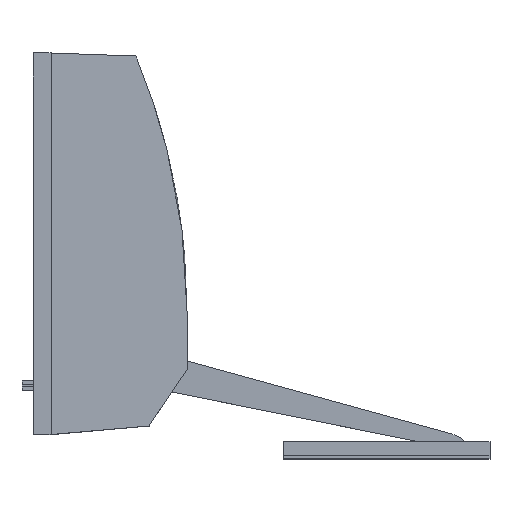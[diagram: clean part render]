
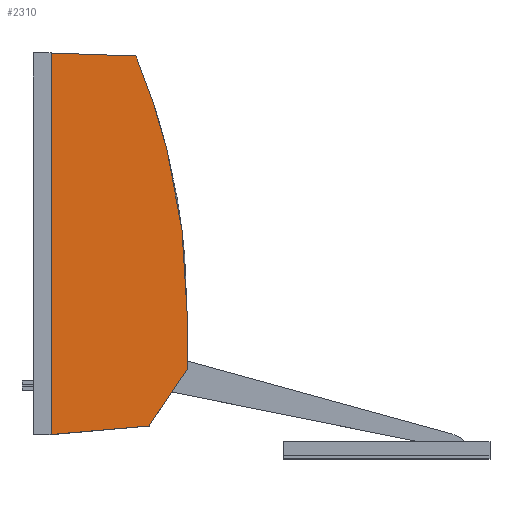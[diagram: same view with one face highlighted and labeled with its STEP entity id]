
A CAD part, top view. The second image highlights one B-rep face of the part: STEP entity #2310.
In plain terms, the highlighted planar face has unit normal (0.035, 0, 0.999).
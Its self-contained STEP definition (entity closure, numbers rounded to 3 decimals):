
#1230 = VERTEX_POINT( '', #3639 );
#1708 = VERTEX_POINT( '', #4177 );
#1814 = EDGE_CURVE( '', #1230, #1708, #4304, .T. );
#2102 = VERTEX_POINT( '', #4622 );
#2228 = EDGE_CURVE( '', #2230, #2516, #4762, .T. );
#2230 = VERTEX_POINT( '', #4764 );
#2310 = ADVANCED_FACE( '', ( #4850 ), #4851, .F. );
#2516 = VERTEX_POINT( '', #5074 );
#2970 = EDGE_CURVE( '', #1230, #3290, #5564, .T. );
#3054 = EDGE_CURVE( '', #1708, #2102, #5655, .T. );
#3152 = EDGE_CURVE( '', #2516, #3290, #5774, .T. );
#3290 = VERTEX_POINT( '', #5923 );
#3410 = EDGE_CURVE( '', #2230, #2102, #6057, .T. );
#3639 = CARTESIAN_POINT( '', ( 0., -58., 16. ) );
#4177 = CARTESIAN_POINT( '', ( 52.284, -53.426, 14.174 ) );
#4304 = LINE( '', #7261, #7262 );
#4622 = CARTESIAN_POINT( '', ( 72.5, -23.102, 13.468 ) );
#4762 = ELLIPSE( '', #7925, 356.737, 356.52 );
#4764 = CARTESIAN_POINT( '', ( 72.5, 7.049, 13.468 ) );
#4850 = FACE_OUTER_BOUND( '', #8048, .T. );
#4851 = PLANE( '', #8049 );
#5074 = CARTESIAN_POINT( '', ( 45.236, 143.786, 14.42 ) );
#5564 = LINE( '', #9167, #9168 );
#5655 = LINE( '', #9307, #9308 );
#5774 = LINE( '', #9469, #9470 );
#5923 = CARTESIAN_POINT( '', ( 0., 145.365, 16. ) );
#6057 = LINE( '', #9952, #9953 );
#7261 = CARTESIAN_POINT( '', ( 0.015, -57.999, 15.999 ) );
#7262 = VECTOR( '', #11093, 1. );
#7925 = AXIS2_PLACEMENT_3D( '', #11600, #11601, #11602 );
#8048 = EDGE_LOOP( '', ( #11679, #11680, #11681, #11682, #11683, #11684 ) );
#8049 = AXIS2_PLACEMENT_3D( '', #11685, #11686, #11687 );
#9167 = CARTESIAN_POINT( '', ( 0., -70., 16. ) );
#9168 = VECTOR( '', #12377, 1. );
#9307 = CARTESIAN_POINT( '', ( 38.394, -74.261, 14.659 ) );
#9308 = VECTOR( '', #12472, 1. );
#9469 = CARTESIAN_POINT( '', ( 27.49, 144.405, 15.04 ) );
#9470 = VECTOR( '', #12646, 1. );
#9952 = CARTESIAN_POINT( '', ( 72.5, -36.475, 13.468 ) );
#9953 = VECTOR( '', #12944, 1. );
#11093 = DIRECTION( '', ( 0.996, 0.087, -0.035 ) );
#11600 = CARTESIAN_POINT( '', ( -284.02, 7.049, 25.919 ) );
#11601 = DIRECTION( '', ( 0.035, 0., 0.999 ) );
#11602 = DIRECTION( '', ( 0.999, 0., -0.035 ) );
#11679 = ORIENTED_EDGE( '', *, *, #3054, .T. );
#11680 = ORIENTED_EDGE( '', *, *, #3410, .F. );
#11681 = ORIENTED_EDGE( '', *, *, #2228, .T. );
#11682 = ORIENTED_EDGE( '', *, *, #3152, .T. );
#11683 = ORIENTED_EDGE( '', *, *, #2970, .F. );
#11684 = ORIENTED_EDGE( '', *, *, #1814, .T. );
#11685 = CARTESIAN_POINT( '', ( 0., -80., 16. ) );
#11686 = DIRECTION( '', ( -0.035, 0., -0.999 ) );
#11687 = DIRECTION( '', ( -0.999, 0., 0.035 ) );
#12377 = DIRECTION( '', ( 0., 1., 0. ) );
#12472 = DIRECTION( '', ( 0.555, 0.832, -0.019 ) );
#12646 = DIRECTION( '', ( -0.999, 0.035, 0.035 ) );
#12944 = DIRECTION( '', ( 0., -1., 0. ) );
